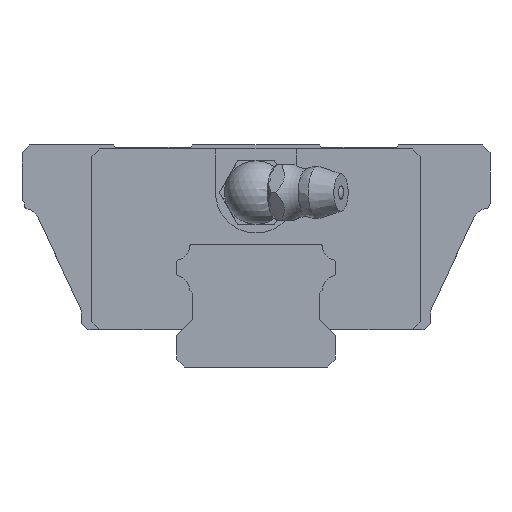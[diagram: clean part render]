
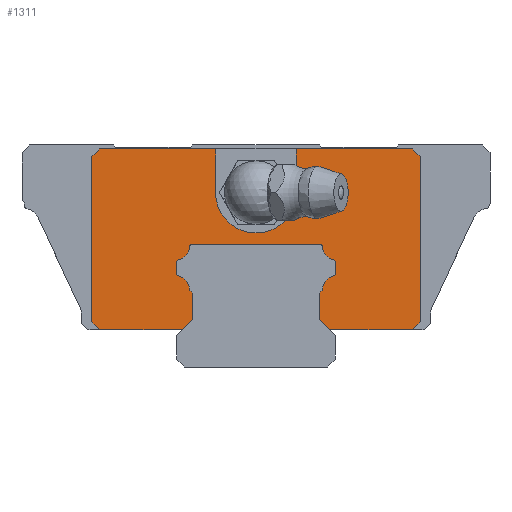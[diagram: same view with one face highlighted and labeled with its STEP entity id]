
A CAD part, front view. The second image highlights one B-rep face of the part: STEP entity #1311.
In plain terms, the highlighted planar face has unit normal (0, -1, 0).
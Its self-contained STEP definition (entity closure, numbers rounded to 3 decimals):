
#487=FACE_OUTER_BOUND('',#1784,.T.);
#582=LINE('',#5538,#910);
#626=LINE('',#5707,#954);
#684=LINE('',#5900,#1012);
#689=LINE('',#5916,#1017);
#694=LINE('',#5934,#1022);
#698=LINE('',#5946,#1026);
#700=LINE('',#5950,#1028);
#702=LINE('',#5954,#1030);
#703=LINE('',#5956,#1031);
#705=LINE('',#5960,#1033);
#707=LINE('',#5964,#1035);
#764=LINE('',#6111,#1092);
#769=LINE('',#6121,#1097);
#770=LINE('',#6123,#1098);
#771=LINE('',#6125,#1099);
#772=LINE('',#6127,#1100);
#773=LINE('',#6129,#1101);
#774=LINE('',#6130,#1102);
#775=LINE('',#6132,#1103);
#776=LINE('',#6134,#1104);
#777=LINE('',#6136,#1105);
#910=VECTOR('',#4431,1.);
#954=VECTOR('',#4557,1.);
#1012=VECTOR('',#4731,1.);
#1017=VECTOR('',#4750,1.);
#1022=VECTOR('',#4771,1.);
#1026=VECTOR('',#4785,1.);
#1028=VECTOR('',#4789,1.);
#1030=VECTOR('',#4793,1.);
#1031=VECTOR('',#4796,1.);
#1033=VECTOR('',#4800,1.);
#1035=VECTOR('',#4804,1.);
#1092=VECTOR('',#4941,1.);
#1097=VECTOR('',#4950,1.);
#1098=VECTOR('',#4953,1.);
#1099=VECTOR('',#4954,1.);
#1100=VECTOR('',#4955,1.);
#1101=VECTOR('',#4956,1.);
#1102=VECTOR('',#4957,1.);
#1103=VECTOR('',#4958,1.);
#1104=VECTOR('',#4959,1.);
#1105=VECTOR('',#4960,1.);
#1311=ADVANCED_FACE('',(#487),#1491,.T.);
#1491=PLANE('',#4186);
#1784=EDGE_LOOP('',(#2449,#2450,#2451,#2452,#2453,#2454,#2455,#2456,#2457,
#2458,#2459,#2460,#2461,#2462,#2463,#2464,#2465,#2466,#2467,#2468,#2469,
#2470,#2471,#2472,#2473,#2474,#2475,#2476,#2477,#2478,#2479,#2480));
#2449=ORIENTED_EDGE('',*,*,#3562,.F.);
#2450=ORIENTED_EDGE('',*,*,#3560,.F.);
#2451=ORIENTED_EDGE('',*,*,#3558,.F.);
#2452=ORIENTED_EDGE('',*,*,#3556,.F.);
#2453=ORIENTED_EDGE('',*,*,#3554,.F.);
#2454=ORIENTED_EDGE('',*,*,#3552,.F.);
#2455=ORIENTED_EDGE('',*,*,#3550,.F.);
#2456=ORIENTED_EDGE('',*,*,#3548,.F.);
#2457=ORIENTED_EDGE('',*,*,#3545,.F.);
#2458=ORIENTED_EDGE('',*,*,#3543,.F.);
#2459=ORIENTED_EDGE('',*,*,#3541,.F.);
#2460=ORIENTED_EDGE('',*,*,#3539,.F.);
#2461=ORIENTED_EDGE('',*,*,#3537,.F.);
#2462=ORIENTED_EDGE('',*,*,#3573,.F.);
#2463=ORIENTED_EDGE('',*,*,#3571,.F.);
#2464=ORIENTED_EDGE('',*,*,#3569,.F.);
#2465=ORIENTED_EDGE('',*,*,#3567,.F.);
#2466=ORIENTED_EDGE('',*,*,#3565,.F.);
#2467=ORIENTED_EDGE('',*,*,#3372,.F.);
#2468=ORIENTED_EDGE('',*,*,#3645,.F.);
#2469=ORIENTED_EDGE('',*,*,#3646,.F.);
#2470=ORIENTED_EDGE('',*,*,#3647,.F.);
#2471=ORIENTED_EDGE('',*,*,#3648,.F.);
#2472=ORIENTED_EDGE('',*,*,#3639,.T.);
#2473=ORIENTED_EDGE('',*,*,#3636,.T.);
#2474=ORIENTED_EDGE('',*,*,#3644,.T.);
#2475=ORIENTED_EDGE('',*,*,#3649,.F.);
#2476=ORIENTED_EDGE('',*,*,#3650,.F.);
#2477=ORIENTED_EDGE('',*,*,#3651,.F.);
#2478=ORIENTED_EDGE('',*,*,#3652,.F.);
#2479=ORIENTED_EDGE('',*,*,#3444,.F.);
#2480=ORIENTED_EDGE('',*,*,#3564,.F.);
#3011=VERTEX_POINT('',#5537);
#3012=VERTEX_POINT('',#5539);
#3064=VERTEX_POINT('',#5706);
#3065=VERTEX_POINT('',#5708);
#3127=VERTEX_POINT('',#5899);
#3128=VERTEX_POINT('',#5901);
#3129=VERTEX_POINT('',#5905);
#3130=VERTEX_POINT('',#5909);
#3131=VERTEX_POINT('',#5913);
#3132=VERTEX_POINT('',#5917);
#3134=VERTEX_POINT('',#5923);
#3135=VERTEX_POINT('',#5927);
#3136=VERTEX_POINT('',#5931);
#3137=VERTEX_POINT('',#5935);
#3138=VERTEX_POINT('',#5939);
#3139=VERTEX_POINT('',#5943);
#3140=VERTEX_POINT('',#5947);
#3141=VERTEX_POINT('',#5951);
#3142=VERTEX_POINT('',#5957);
#3143=VERTEX_POINT('',#5961);
#3144=VERTEX_POINT('',#5965);
#3145=VERTEX_POINT('',#5969);
#3191=VERTEX_POINT('',#6104);
#3192=VERTEX_POINT('',#6106);
#3194=VERTEX_POINT('',#6112);
#3196=VERTEX_POINT('',#6120);
#3197=VERTEX_POINT('',#6124);
#3198=VERTEX_POINT('',#6126);
#3199=VERTEX_POINT('',#6128);
#3200=VERTEX_POINT('',#6131);
#3201=VERTEX_POINT('',#6133);
#3202=VERTEX_POINT('',#6135);
#3372=EDGE_CURVE('',#3011,#3012,#582,.T.);
#3444=EDGE_CURVE('',#3064,#3065,#626,.T.);
#3537=EDGE_CURVE('',#3127,#3128,#684,.T.);
#3539=EDGE_CURVE('',#3128,#3129,#3906,.T.);
#3541=EDGE_CURVE('',#3129,#3130,#3907,.T.);
#3543=EDGE_CURVE('',#3130,#3131,#3908,.T.);
#3545=EDGE_CURVE('',#3131,#3132,#689,.T.);
#3548=EDGE_CURVE('',#3132,#3134,#3910,.T.);
#3550=EDGE_CURVE('',#3134,#3135,#3911,.T.);
#3552=EDGE_CURVE('',#3135,#3136,#3912,.T.);
#3554=EDGE_CURVE('',#3136,#3137,#694,.T.);
#3556=EDGE_CURVE('',#3137,#3138,#3913,.T.);
#3558=EDGE_CURVE('',#3138,#3139,#3914,.T.);
#3560=EDGE_CURVE('',#3139,#3140,#698,.T.);
#3562=EDGE_CURVE('',#3140,#3141,#700,.T.);
#3564=EDGE_CURVE('',#3141,#3064,#702,.T.);
#3565=EDGE_CURVE('',#3012,#3142,#703,.T.);
#3567=EDGE_CURVE('',#3142,#3143,#705,.T.);
#3569=EDGE_CURVE('',#3143,#3144,#707,.T.);
#3571=EDGE_CURVE('',#3144,#3145,#3915,.T.);
#3573=EDGE_CURVE('',#3145,#3127,#3916,.T.);
#3636=EDGE_CURVE('',#3192,#3191,#3927,.T.);
#3639=EDGE_CURVE('',#3194,#3192,#764,.T.);
#3644=EDGE_CURVE('',#3191,#3196,#769,.T.);
#3645=EDGE_CURVE('',#3197,#3011,#770,.T.);
#3646=EDGE_CURVE('',#3198,#3197,#771,.T.);
#3647=EDGE_CURVE('',#3199,#3198,#772,.T.);
#3648=EDGE_CURVE('',#3194,#3199,#773,.T.);
#3649=EDGE_CURVE('',#3200,#3196,#774,.T.);
#3650=EDGE_CURVE('',#3201,#3200,#775,.T.);
#3651=EDGE_CURVE('',#3202,#3201,#776,.T.);
#3652=EDGE_CURVE('',#3065,#3202,#777,.T.);
#3906=CIRCLE('',#4119,0.3);
#3907=CIRCLE('',#4121,1.9);
#3908=CIRCLE('',#4123,0.3);
#3910=CIRCLE('',#4127,0.3);
#3911=CIRCLE('',#4129,1.9);
#3912=CIRCLE('',#4131,0.3);
#3913=CIRCLE('',#4134,0.3);
#3914=CIRCLE('',#4136,1.9);
#3915=CIRCLE('',#4144,1.9);
#3916=CIRCLE('',#4146,0.3);
#3927=CIRCLE('',#4181,5.1);
#4119=AXIS2_PLACEMENT_3D('',#5904,#4735,#4736);
#4121=AXIS2_PLACEMENT_3D('',#5908,#4740,#4741);
#4123=AXIS2_PLACEMENT_3D('',#5912,#4745,#4746);
#4127=AXIS2_PLACEMENT_3D('',#5922,#4756,#4757);
#4129=AXIS2_PLACEMENT_3D('',#5926,#4761,#4762);
#4131=AXIS2_PLACEMENT_3D('',#5930,#4766,#4767);
#4134=AXIS2_PLACEMENT_3D('',#5938,#4775,#4776);
#4136=AXIS2_PLACEMENT_3D('',#5942,#4780,#4781);
#4144=AXIS2_PLACEMENT_3D('',#5968,#4808,#4809);
#4146=AXIS2_PLACEMENT_3D('',#5972,#4813,#4814);
#4181=AXIS2_PLACEMENT_3D('',#6105,#4935,#4936);
#4186=AXIS2_PLACEMENT_3D('',#6137,#4961,#4962);
#4431=DIRECTION('',(-1.,0.,0.));
#4557=DIRECTION('',(-1.,0.,0.));
#4731=DIRECTION('',(0.,0.,1.));
#4735=DIRECTION('',(0.,-1.,0.));
#4736=DIRECTION('',(0.,0.,-1.));
#4740=DIRECTION('',(0.,1.,0.));
#4741=DIRECTION('',(0.,0.,-1.));
#4745=DIRECTION('',(0.,-1.,0.));
#4746=DIRECTION('',(0.,0.,-1.));
#4750=DIRECTION('',(-1.,0.,0.));
#4756=DIRECTION('',(0.,-1.,0.));
#4757=DIRECTION('',(0.,0.,-1.));
#4761=DIRECTION('',(0.,1.,0.));
#4762=DIRECTION('',(0.,0.,-1.));
#4766=DIRECTION('',(0.,-1.,0.));
#4767=DIRECTION('',(0.,0.,-1.));
#4771=DIRECTION('',(0.,0.,-1.));
#4775=DIRECTION('',(0.,-1.,0.));
#4776=DIRECTION('',(0.,0.,-1.));
#4780=DIRECTION('',(0.,1.,0.));
#4781=DIRECTION('',(0.,0.,-1.));
#4785=DIRECTION('',(0.707,0.,-0.707));
#4789=DIRECTION('',(0.,0.,-1.));
#4793=DIRECTION('',(-0.707,0.,-0.707));
#4796=DIRECTION('',(-0.707,0.,0.707));
#4800=DIRECTION('',(0.,0.,1.));
#4804=DIRECTION('',(0.707,0.,0.707));
#4808=DIRECTION('',(0.,1.,0.));
#4809=DIRECTION('',(0.,0.,-1.));
#4813=DIRECTION('',(0.,-1.,0.));
#4814=DIRECTION('',(0.,0.,-1.));
#4935=DIRECTION('',(0.,1.,0.));
#4936=DIRECTION('',(-1.,0.,0.));
#4941=DIRECTION('',(0.,0.,-1.));
#4950=DIRECTION('',(0.,0.,1.));
#4953=DIRECTION('',(-0.707,0.,-0.707));
#4954=DIRECTION('',(0.,0.,-1.));
#4955=DIRECTION('',(0.707,0.,-0.707));
#4956=DIRECTION('',(1.,0.,0.));
#4957=DIRECTION('',(1.,0.,0.));
#4958=DIRECTION('',(0.707,0.,0.707));
#4959=DIRECTION('',(0.,0.,1.));
#4960=DIRECTION('',(-0.707,0.,0.707));
#4961=DIRECTION('',(0.,-1.,0.));
#4962=DIRECTION('',(0.,0.,-1.));
#5537=CARTESIAN_POINT('',(19.7,-19.6,4.7));
#5538=CARTESIAN_POINT('',(19.7,-19.6,4.7));
#5539=CARTESIAN_POINT('',(9.3,-19.6,4.7));
#5706=CARTESIAN_POINT('',(-9.3,-19.6,4.7));
#5707=CARTESIAN_POINT('',(19.7,-19.6,4.7));
#5708=CARTESIAN_POINT('',(-19.7,-19.6,4.7));
#5899=CARTESIAN_POINT('',(10.,-19.6,11.781));
#5900=CARTESIAN_POINT('',(10.,-19.6,22.));
#5901=CARTESIAN_POINT('',(10.,-19.6,13.219));
#5904=CARTESIAN_POINT('',(9.7,-19.6,13.219));
#5905=CARTESIAN_POINT('',(9.775,-19.6,13.51));
#5908=CARTESIAN_POINT('',(10.249,-19.6,15.349));
#5909=CARTESIAN_POINT('',(8.354,-19.6,15.22));
#5912=CARTESIAN_POINT('',(8.055,-19.6,15.2));
#5913=CARTESIAN_POINT('',(8.055,-19.6,15.5));
#5916=CARTESIAN_POINT('',(0.,-19.6,15.5));
#5917=CARTESIAN_POINT('',(-8.055,-19.6,15.5));
#5922=CARTESIAN_POINT('',(-8.055,-19.6,15.2));
#5923=CARTESIAN_POINT('',(-8.354,-19.6,15.22));
#5926=CARTESIAN_POINT('',(-10.249,-19.6,15.349));
#5927=CARTESIAN_POINT('',(-9.775,-19.6,13.51));
#5930=CARTESIAN_POINT('',(-9.7,-19.6,13.219));
#5931=CARTESIAN_POINT('',(-10.,-19.6,13.219));
#5934=CARTESIAN_POINT('',(-10.,-19.6,22.));
#5935=CARTESIAN_POINT('',(-10.,-19.6,11.781));
#5938=CARTESIAN_POINT('',(-9.7,-19.6,11.781));
#5939=CARTESIAN_POINT('',(-9.775,-19.6,11.49));
#5942=CARTESIAN_POINT('',(-10.249,-19.6,9.651));
#5943=CARTESIAN_POINT('',(-8.349,-19.6,9.649));
#5946=CARTESIAN_POINT('',(-10.35,-19.6,11.65));
#5947=CARTESIAN_POINT('',(-8.,-19.6,9.3));
#5950=CARTESIAN_POINT('',(-8.,-19.6,22.));
#5951=CARTESIAN_POINT('',(-8.,-19.6,6.));
#5954=CARTESIAN_POINT('',(4.,-19.6,18.));
#5956=CARTESIAN_POINT('',(-4.,-19.6,18.));
#5957=CARTESIAN_POINT('',(8.,-19.6,6.));
#5960=CARTESIAN_POINT('',(8.,-19.6,22.));
#5961=CARTESIAN_POINT('',(8.,-19.6,9.3));
#5964=CARTESIAN_POINT('',(10.35,-19.6,11.65));
#5965=CARTESIAN_POINT('',(8.349,-19.6,9.649));
#5968=CARTESIAN_POINT('',(10.249,-19.6,9.651));
#5969=CARTESIAN_POINT('',(9.775,-19.6,11.49));
#5972=CARTESIAN_POINT('',(9.7,-19.6,11.781));
#6104=CARTESIAN_POINT('',(-5.1,-19.6,22.));
#6105=CARTESIAN_POINT('',(0.,-19.6,22.));
#6106=CARTESIAN_POINT('',(5.1,-19.6,22.));
#6111=CARTESIAN_POINT('',(5.1,-19.6,27.5));
#6112=CARTESIAN_POINT('',(5.1,-19.6,27.5));
#6120=CARTESIAN_POINT('',(-5.1,-19.6,27.5));
#6121=CARTESIAN_POINT('',(-5.1,-19.6,22.));
#6123=CARTESIAN_POINT('',(20.7,-19.6,5.7));
#6124=CARTESIAN_POINT('',(20.7,-19.6,5.7));
#6125=CARTESIAN_POINT('',(20.7,-19.6,26.5));
#6126=CARTESIAN_POINT('',(20.7,-19.6,26.5));
#6127=CARTESIAN_POINT('',(19.7,-19.6,27.5));
#6128=CARTESIAN_POINT('',(19.7,-19.6,27.5));
#6129=CARTESIAN_POINT('',(-19.7,-19.6,27.5));
#6130=CARTESIAN_POINT('',(-19.7,-19.6,27.5));
#6131=CARTESIAN_POINT('',(-19.7,-19.6,27.5));
#6132=CARTESIAN_POINT('',(-20.7,-19.6,26.5));
#6133=CARTESIAN_POINT('',(-20.7,-19.6,26.5));
#6134=CARTESIAN_POINT('',(-20.7,-19.6,5.7));
#6135=CARTESIAN_POINT('',(-20.7,-19.6,5.7));
#6136=CARTESIAN_POINT('',(-19.7,-19.6,4.7));
#6137=CARTESIAN_POINT('',(0.,-19.6,22.));
